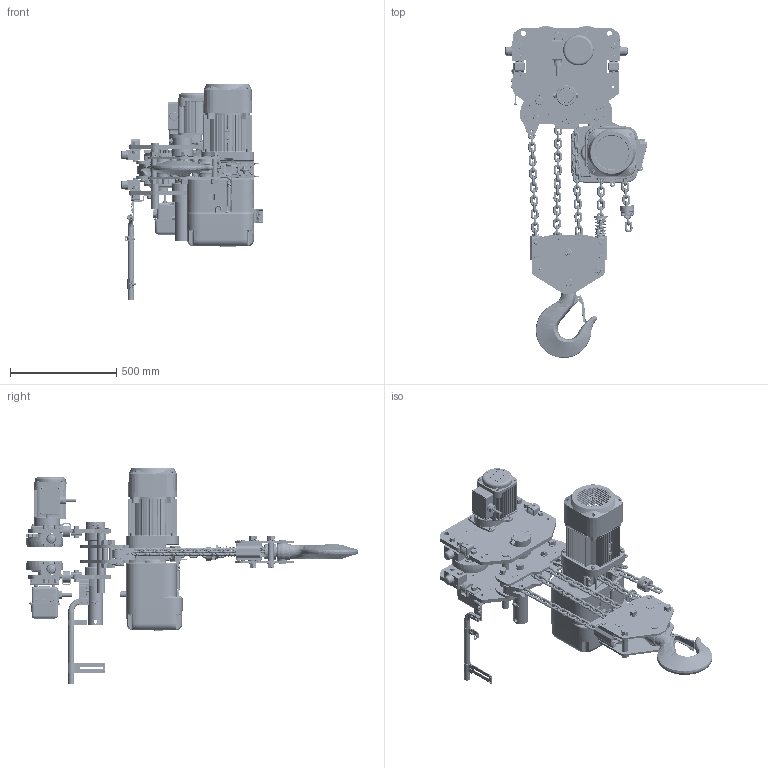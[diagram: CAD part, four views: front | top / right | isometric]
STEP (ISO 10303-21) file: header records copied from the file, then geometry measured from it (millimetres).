
FILE_DESCRIPTION (( 'STEP AP214' ), '1' );
FILE_NAME ('NER2M100L-L.STEP', '2026-08-06T14:40:40', ( '' ), ( '' ), 'SwSTEP 2.0', 'SolidWorks 2026', '' );
FILE_SCHEMA (( 'AUTOMOTIVE_DESIGN' ));
Length unit declared in the file: millimetre
Products named in the file (164): J1BG11002828_J1BG11002828; MS554010; ER2FS9101; ECP5924AA1; ER2IS91211; ER2IS90041; NER2100L_NO SUSPENDER; 16-6P (MR2); ER2ES9107_ER2ES9107; MR1GS1211 BODY; ER2HS90051; MR1DS9496; J1SR000-00100_9047145; E6SE075S90671; E3S112003; ER1ES1041; KITO-WASHER; LCER2025NP; ER2IS50031; M6F554010; ER2FS6121; ECP5924AD1; MR1IS9201; E6SE075S90531; 90912134_90912134; MR1IS9634; MR1DS1491; ECP6916AA; socket head cap screw_am_9091272; ER1BS1175; hex nut style 1_am_9093445; M6SE100S9101; ER2CS9357; ER1HS90161; ECP5924AB1; M6SE100S9114; ER1HS90091; MR1DS9501; ECP2304AF; ER2FS9104_ER2FS9104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
Assembly tree (482 placements, depth 6):
  NER2M100L-L
    MR2100L_6" FLANGE
      MR1IS5201
        MR1IS9201
        MR1IS9203  x2
        M6SE100S9113
      MR1IS5202
        MR1IS9202
        MR1IS9203  x2
        M6SE100S9114
      MR1GS1211_Reversed  x2
        MR1GS1211 BODY
        MR1GS1211 ATTACHMENT
      MR1GS1211  x2
        MR1GS1211 BODY
        MR1GS1211 ATTACHMENT
      spring lock washer_2_jis_9012715  x11
      hex cap screw_am_90933116  x4
      hex nut style 1_am_9093439  x12
      MS104075  x4
      MS1101075  x2
        M6SE100S9101
        6309Z Bearing
        J1SR000-00100_9047145
      MS1102075  x2
        M6SE100S9102
        6309Z Bearing
        J1SR000-00100_9047145
      basic external retaining ring_am_PreviewCfg  x4
      70165XX_7016501
        MR1DS9401_1 - 8 TON & 10 L TON
        MR1DS9411
        MR1DS9421
        external tooth lock washer_am_PreviewCfg  x4
        MS554010  x8
        MR2HS1768
          60704
            ECP5924AA1
            ECP5924AD1
            ECP5924AC1
            KITO-WASHER
            ECP5924AB1
          16-6P (MR2)
          ECP2108AC
          ECP6916AA
        MR2HS1759
          60704
            ECP5924AA1
            ECP5924AD1
            ECP5924AC1
            KITO-WASHER
            ECP5924AB1
          ECP6916AA
          14-4 (MR2)
          ECP2304AF
        60704
          ECP5924AA1
          ECP5924AD1
          ECP5924AC1
          KITO-WASHER
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Bounding box: 673 x 1565.19 x 1015.08 mm (x, y, z)
Volume: 59942044.4 mm3; surface area: 7662137.7 mm2
Topology: 516 solids, 536 shells, 17547 faces, 45120 edges, 28719 vertices
Faces by surface type: plane 7000, cylinder 5660, torus 1642, cone 1516, bspline 1412, sphere 317
Entity records: 407933 total; most frequent: CARTESIAN_POINT 161969, ORIENTED_EDGE 50134, DIRECTION 48651, EDGE_CURVE 25069, AXIS2_PLACEMENT_3D 18312, VERTEX_POINT 16264, VECTOR 12027, LINE 12027
